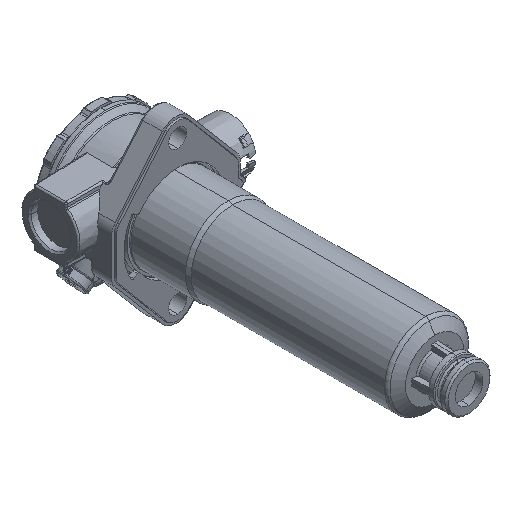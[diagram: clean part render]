
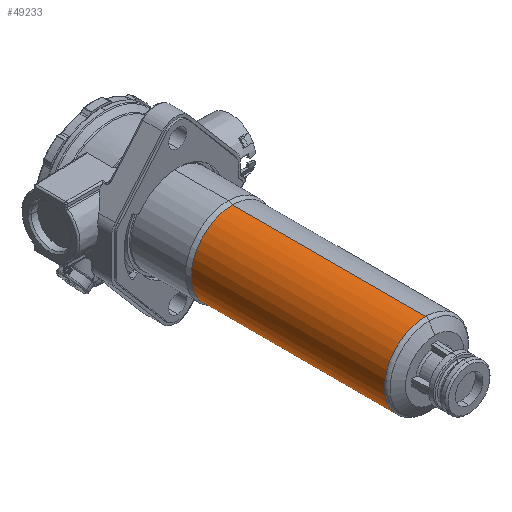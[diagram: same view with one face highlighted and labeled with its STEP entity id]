
A CAD part, isometric view. The second image highlights one B-rep face of the part: STEP entity #49233.
In plain terms, the highlighted cylindrical face has radius 25.25 mm (diameter 50.5 mm), a partial arc.
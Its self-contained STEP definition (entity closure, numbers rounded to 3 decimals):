
#17347=CARTESIAN_POINT('',(0.,-35.214,
0.));
#17348=DIRECTION('',(0.,-1.,0.));
#17349=DIRECTION('',(0.,0.,1.));
#17350=AXIS2_PLACEMENT_3D('',#17347,#17348,#17349);
#17355=DIRECTION('',(0.,-1.,0.));
#17356=VECTOR('',#17355,118.462);
#17357=CARTESIAN_POINT('',(0.,-35.214,
-25.25));
#17358=LINE('',#17357,#17356);
#17362=DIRECTION('',(0.,-1.,0.));
#17363=VECTOR('',#17362,118.462);
#17364=CARTESIAN_POINT('',(0.,-35.214,
25.25));
#17365=LINE('',#17364,#17363);
#17401=CARTESIAN_POINT('',(0.,-153.676,
0.));
#17402=DIRECTION('',(0.,1.,0.));
#17403=DIRECTION('',(0.,0.,-1.));
#17404=AXIS2_PLACEMENT_3D('',#17401,#17402,#17403);
#29550=CARTESIAN_POINT('',(0.,-153.676,
25.25));
#29551=VERTEX_POINT('',#29550);
#29552=CARTESIAN_POINT('',(0.,-153.676,
-25.25));
#29553=VERTEX_POINT('',#29552);
#29554=CARTESIAN_POINT('',(0.,-35.214,
25.25));
#29555=VERTEX_POINT('',#29554);
#29556=CARTESIAN_POINT('',(0.,-35.214,
-25.25));
#29557=VERTEX_POINT('',#29556);
#49219=CARTESIAN_POINT('',(0.,-94.445,
0.));
#49220=DIRECTION('',(0.,-1.,0.));
#49221=DIRECTION('',(0.,0.,1.));
#49222=AXIS2_PLACEMENT_3D('',#49219,#49220,#49221);
#49223=CYLINDRICAL_SURFACE('',#49222,25.25);
#49224=ORIENTED_EDGE('',*,*,#49213,.F.);
#49226=ORIENTED_EDGE('',*,*,#49225,.T.);
#49228=ORIENTED_EDGE('',*,*,#49227,.F.);
#49230=ORIENTED_EDGE('',*,*,#49229,.F.);
#49231=EDGE_LOOP('',(#49224,#49226,#49228,#49230));
#49232=FACE_OUTER_BOUND('',#49231,.F.);
#17351=CIRCLE('',#17350,25.25);
#17405=CIRCLE('',#17404,25.25);
#49213=EDGE_CURVE('',#29555,#29557,#17351,.T.);
#49225=EDGE_CURVE('',#29555,#29551,#17365,.T.);
#49227=EDGE_CURVE('',#29553,#29551,#17405,.T.);
#49229=EDGE_CURVE('',#29557,#29553,#17358,.T.);
#49233=ADVANCED_FACE('',(#49232),#49223,.T.);
